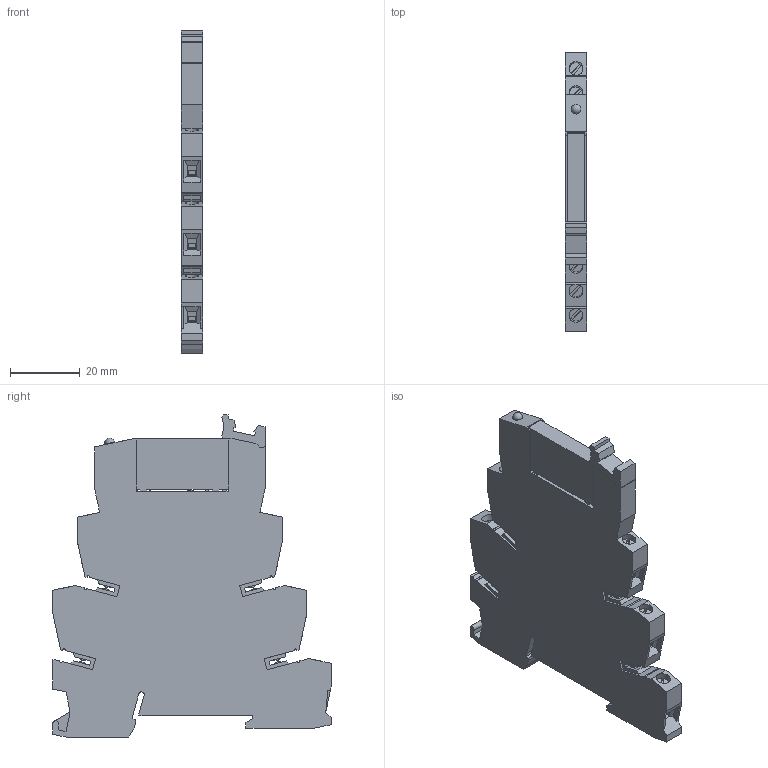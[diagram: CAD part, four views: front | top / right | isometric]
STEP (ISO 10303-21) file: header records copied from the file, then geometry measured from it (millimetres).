
FILE_DESCRIPTION(('TFLEX Exchange Step'),'2;1');
FILE_NAME('60111000_РПО-1-24D-1L_P.stp', '2023-11-02T11:55:13+03:00',('apanin'),('Unknown organisation'),'TFLEX Exchange 2023.0','T-FLEX CAD','Unknown authorisation');
FILE_SCHEMA( ('AUTOMOTIVE_DESIGN { 1 0 10303 214 1 1 1 1 }') );
Length unit declared in the file: millimetre
Products named in the file (1): Тело_5:1
Bounding box: 6.1 x 80 x 92.6 mm (x, y, z)
Volume: 30024.8 mm3; surface area: 14760.7 mm2
Topology: 1 solids, 6 shells, 674 faces, 1900 edges, 1265 vertices
Faces by surface type: plane 476, cylinder 197, sphere 1
Full cylindrical faces by diameter (mm): 2.8 x1, 4 x5
Entity records: 21710 total; most frequent: CARTESIAN_POINT 4107, ORIENTED_EDGE 3796, DIRECTION 3438, EDGE_CURVE 1898, VERTEX_POINT 1265, VECTOR 1218, LINE 1218, AXIS2_PLACEMENT_3D 1110
